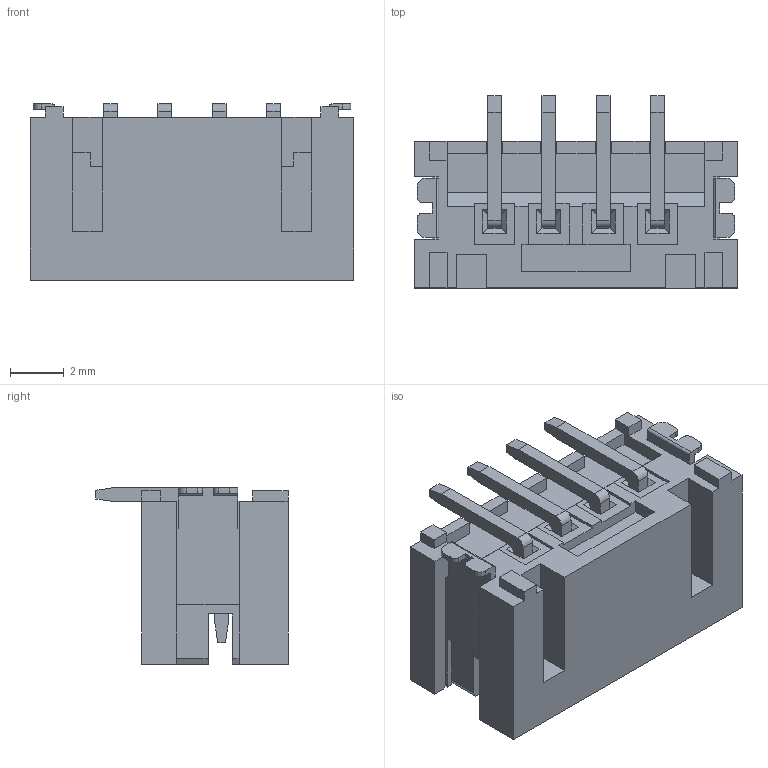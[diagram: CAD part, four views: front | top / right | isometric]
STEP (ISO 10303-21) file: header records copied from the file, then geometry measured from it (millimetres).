
FILE_DESCRIPTION (( 'STEP AP214' ), '1' );
FILE_NAME ('GT-A2001WVS-104SBT01.STEP', '2024-04-24T01:32:49', ( '' ), ( '' ), 'SwSTEP 2.0', 'SolidWorks 2023', '' );
FILE_SCHEMA (( 'AUTOMOTIVE_DESIGN' ));
Length unit declared in the file: millimetre
Products named in the file (1): GT-A2001WVS-104SBT01
Bounding box: 11.97 x 7.12 x 6.53 mm (x, y, z)
Volume: 193 mm3; surface area: 611.4 mm2
Topology: 1 solids, 1 shells, 559 faces, 1567 edges, 1034 vertices
Faces by surface type: plane 463, bspline 74, cylinder 22
Entity records: 21292 total; most frequent: CARTESIAN_POINT 7331, ORIENTED_EDGE 3134, DIRECTION 2435, EDGE_CURVE 1567, LINE 1375, VECTOR 1375, VERTEX_POINT 1034, EDGE_LOOP 587
